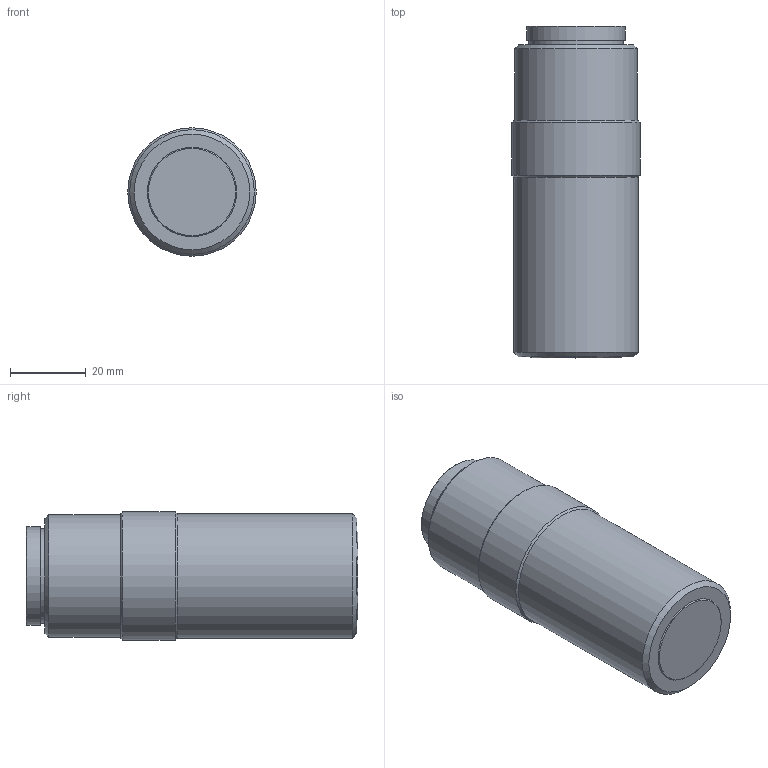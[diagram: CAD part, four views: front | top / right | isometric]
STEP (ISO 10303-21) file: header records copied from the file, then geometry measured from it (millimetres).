
FILE_DESCRIPTION((''),'1');
FILE_NAME('C:/Users/m.okamura/Desktop/新しいフォルダー (2)/PAL-100-', '2016-12-19T06:56:10',(''), (''), 'KCM Version 1.1.1028.0', 'Kubotek KeyCreator', '');
FILE_SCHEMA(('AUTOMOTIVE_DESIGN'));
Length unit declared in the file: millimetre
Bounding box: 34 x 87.86 x 34 mm (x, y, z)
Volume: 73485 mm3; surface area: 10686.8 mm2
Topology: 1 solids, 1 shells, 17 faces, 29 edges, 20 vertices
Faces by surface type: plane 6, cone 6, cylinder 5
Full cylindrical faces by diameter (mm): 24.894 x1, 26 x1, 32.5 x1, 33 x1, 34 x1
Entity records: 444 total; most frequent: DIRECTION 81, CARTESIAN_POINT 63, ORIENTED_EDGE 54, AXIS2_PLACEMENT_3D 34, EDGE_CURVE 27, EDGE_LOOP 21, FACE_OUTER_BOUND 17, ADVANCED_FACE 17
